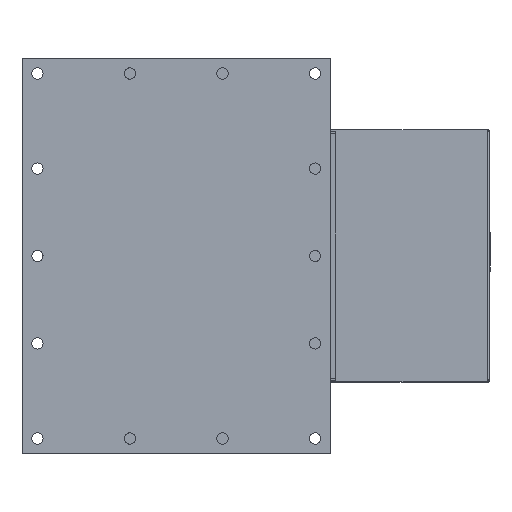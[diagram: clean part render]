
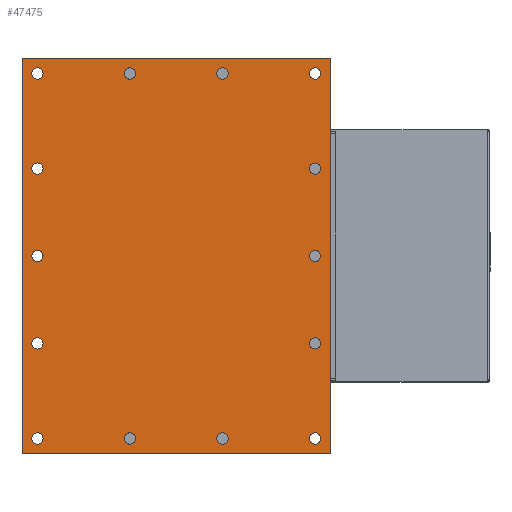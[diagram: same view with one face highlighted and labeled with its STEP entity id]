
A CAD part, top view. The second image highlights one B-rep face of the part: STEP entity #47475.
In plain terms, the highlighted planar face has unit normal (0, 0, 1).
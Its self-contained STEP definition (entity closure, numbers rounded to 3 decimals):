
#1965=FACE_BOUND('',#15695,.T.);
#1966=FACE_BOUND('',#15696,.T.);
#1967=FACE_BOUND('',#15697,.T.);
#1968=FACE_BOUND('',#15698,.T.);
#1969=FACE_BOUND('',#15699,.T.);
#1970=FACE_BOUND('',#15700,.T.);
#1971=FACE_BOUND('',#15701,.T.);
#1972=FACE_BOUND('',#15702,.T.);
#1973=FACE_BOUND('',#15703,.T.);
#1974=FACE_BOUND('',#15704,.T.);
#1975=FACE_BOUND('',#15705,.T.);
#1976=FACE_BOUND('',#15706,.T.);
#1977=FACE_BOUND('',#15707,.T.);
#1978=FACE_BOUND('',#15708,.T.);
#4836=LINE('',#81065,#8213);
#4837=LINE('',#81067,#8214);
#4838=LINE('',#81069,#8215);
#4839=LINE('',#81070,#8216);
#8213=VECTOR('',#63866,600.);
#8214=VECTOR('',#63867,770.);
#8215=VECTOR('',#63868,600.);
#8216=VECTOR('',#63869,770.);
#9896=PLANE('',#52052);
#12432=FACE_OUTER_BOUND('',#15694,.T.);
#15694=EDGE_LOOP('',(#39875,#39876,#39877,#39878));
#15695=EDGE_LOOP('',(#39879));
#15696=EDGE_LOOP('',(#39880));
#15697=EDGE_LOOP('',(#39881));
#15698=EDGE_LOOP('',(#39882));
#15699=EDGE_LOOP('',(#39883));
#15700=EDGE_LOOP('',(#39884));
#15701=EDGE_LOOP('',(#39885));
#15702=EDGE_LOOP('',(#39886));
#15703=EDGE_LOOP('',(#39887));
#15704=EDGE_LOOP('',(#39888));
#15705=EDGE_LOOP('',(#39889));
#15706=EDGE_LOOP('',(#39890));
#15707=EDGE_LOOP('',(#39891));
#15708=EDGE_LOOP('',(#39892));
#17461=CIRCLE('',#49714,11.);
#17463=CIRCLE('',#49717,11.);
#17465=CIRCLE('',#49720,11.);
#17467=CIRCLE('',#49723,11.);
#17470=CIRCLE('',#49727,11.);
#17472=CIRCLE('',#49730,11.);
#17474=CIRCLE('',#49733,11.);
#17476=CIRCLE('',#49736,11.);
#17478=CIRCLE('',#49739,11.);
#17480=CIRCLE('',#49742,11.);
#17481=CIRCLE('',#49744,11.);
#17483=CIRCLE('',#49747,11.);
#17486=CIRCLE('',#49751,11.);
#17487=CIRCLE('',#49753,11.);
#20434=VERTEX_POINT('',#72853);
#20436=VERTEX_POINT('',#72858);
#20438=VERTEX_POINT('',#72863);
#20440=VERTEX_POINT('',#72868);
#20443=VERTEX_POINT('',#72875);
#20445=VERTEX_POINT('',#72880);
#20447=VERTEX_POINT('',#72885);
#20449=VERTEX_POINT('',#72890);
#20451=VERTEX_POINT('',#72895);
#20453=VERTEX_POINT('',#72900);
#20454=VERTEX_POINT('',#72903);
#20456=VERTEX_POINT('',#72908);
#20459=VERTEX_POINT('',#72915);
#20460=VERTEX_POINT('',#72918);
#22313=VERTEX_POINT('',#81063);
#22314=VERTEX_POINT('',#81064);
#22315=VERTEX_POINT('',#81066);
#22316=VERTEX_POINT('',#81068);
#25344=EDGE_CURVE('',#20434,#20434,#17461,.T.);
#25346=EDGE_CURVE('',#20436,#20436,#17463,.T.);
#25348=EDGE_CURVE('',#20438,#20438,#17465,.T.);
#25350=EDGE_CURVE('',#20440,#20440,#17467,.T.);
#25353=EDGE_CURVE('',#20443,#20443,#17470,.T.);
#25355=EDGE_CURVE('',#20445,#20445,#17472,.T.);
#25357=EDGE_CURVE('',#20447,#20447,#17474,.T.);
#25359=EDGE_CURVE('',#20449,#20449,#17476,.T.);
#25361=EDGE_CURVE('',#20451,#20451,#17478,.T.);
#25363=EDGE_CURVE('',#20453,#20453,#17480,.T.);
#25364=EDGE_CURVE('',#20454,#20454,#17481,.T.);
#25366=EDGE_CURVE('',#20456,#20456,#17483,.T.);
#25369=EDGE_CURVE('',#20459,#20459,#17486,.T.);
#25370=EDGE_CURVE('',#20460,#20460,#17487,.T.);
#28272=EDGE_CURVE('',#22313,#22314,#4836,.T.);
#28273=EDGE_CURVE('',#22315,#22313,#4837,.T.);
#28274=EDGE_CURVE('',#22316,#22315,#4838,.T.);
#28275=EDGE_CURVE('',#22314,#22316,#4839,.T.);
#39875=ORIENTED_EDGE('',*,*,#28272,.F.);
#39876=ORIENTED_EDGE('',*,*,#28273,.F.);
#39877=ORIENTED_EDGE('',*,*,#28274,.F.);
#39878=ORIENTED_EDGE('',*,*,#28275,.F.);
#39879=ORIENTED_EDGE('',*,*,#25344,.T.);
#39880=ORIENTED_EDGE('',*,*,#25346,.T.);
#39881=ORIENTED_EDGE('',*,*,#25348,.T.);
#39882=ORIENTED_EDGE('',*,*,#25350,.T.);
#39883=ORIENTED_EDGE('',*,*,#25353,.T.);
#39884=ORIENTED_EDGE('',*,*,#25355,.T.);
#39885=ORIENTED_EDGE('',*,*,#25357,.T.);
#39886=ORIENTED_EDGE('',*,*,#25359,.T.);
#39887=ORIENTED_EDGE('',*,*,#25361,.T.);
#39888=ORIENTED_EDGE('',*,*,#25363,.T.);
#39889=ORIENTED_EDGE('',*,*,#25364,.T.);
#39890=ORIENTED_EDGE('',*,*,#25366,.T.);
#39891=ORIENTED_EDGE('',*,*,#25369,.T.);
#39892=ORIENTED_EDGE('',*,*,#25370,.T.);
#47475=ADVANCED_FACE('',(#12432,#1965,#1966,#1967,#1968,#1969,#1970,#1971,
#1972,#1973,#1974,#1975,#1976,#1977,#1978),#9896,.T.);
#49714=AXIS2_PLACEMENT_3D('',#72854,#57760,#57761);
#49717=AXIS2_PLACEMENT_3D('',#72859,#57766,#57767);
#49720=AXIS2_PLACEMENT_3D('',#72864,#57772,#57773);
#49723=AXIS2_PLACEMENT_3D('',#72869,#57778,#57779);
#49727=AXIS2_PLACEMENT_3D('',#72876,#57786,#57787);
#49730=AXIS2_PLACEMENT_3D('',#72881,#57792,#57793);
#49733=AXIS2_PLACEMENT_3D('',#72886,#57798,#57799);
#49736=AXIS2_PLACEMENT_3D('',#72891,#57804,#57805);
#49739=AXIS2_PLACEMENT_3D('',#72896,#57810,#57811);
#49742=AXIS2_PLACEMENT_3D('',#72901,#57816,#57817);
#49744=AXIS2_PLACEMENT_3D('',#72904,#57820,#57821);
#49747=AXIS2_PLACEMENT_3D('',#72909,#57826,#57827);
#49751=AXIS2_PLACEMENT_3D('',#72916,#57834,#57835);
#49753=AXIS2_PLACEMENT_3D('',#72919,#57838,#57839);
#52052=AXIS2_PLACEMENT_3D('',#81062,#63864,#63865);
#57760=DIRECTION('center_axis',(0.,0.,
-1.));
#57761=DIRECTION('ref_axis',(1.,0.,0.));
#57766=DIRECTION('center_axis',(0.,0.,
-1.));
#57767=DIRECTION('ref_axis',(1.,0.,0.));
#57772=DIRECTION('center_axis',(0.,0.,
-1.));
#57773=DIRECTION('ref_axis',(1.,0.,0.));
#57778=DIRECTION('center_axis',(0.,0.,
-1.));
#57779=DIRECTION('ref_axis',(1.,0.,0.));
#57786=DIRECTION('center_axis',(0.,0.,
-1.));
#57787=DIRECTION('ref_axis',(1.,0.,0.));
#57792=DIRECTION('center_axis',(0.,0.,
-1.));
#57793=DIRECTION('ref_axis',(1.,0.,0.));
#57798=DIRECTION('center_axis',(0.,0.,
-1.));
#57799=DIRECTION('ref_axis',(1.,0.,0.));
#57804=DIRECTION('center_axis',(0.,0.,
-1.));
#57805=DIRECTION('ref_axis',(1.,0.,0.));
#57810=DIRECTION('center_axis',(0.,0.,
-1.));
#57811=DIRECTION('ref_axis',(1.,0.,0.));
#57816=DIRECTION('center_axis',(0.,0.,
-1.));
#57817=DIRECTION('ref_axis',(1.,0.,0.));
#57820=DIRECTION('center_axis',(0.,0.,
-1.));
#57821=DIRECTION('ref_axis',(1.,0.,0.));
#57826=DIRECTION('center_axis',(0.,0.,
-1.));
#57827=DIRECTION('ref_axis',(1.,0.,0.));
#57834=DIRECTION('center_axis',(0.,0.,
-1.));
#57835=DIRECTION('ref_axis',(1.,0.,0.));
#57838=DIRECTION('center_axis',(0.,0.,
-1.));
#57839=DIRECTION('ref_axis',(1.,0.,0.));
#63864=DIRECTION('center_axis',(0.,0.,
1.));
#63865=DIRECTION('ref_axis',(0.,1.,0.));
#63866=DIRECTION('',(1.,0.,0.));
#63867=DIRECTION('',(0.,1.,0.));
#63868=DIRECTION('',(-1.,0.,0.));
#63869=DIRECTION('',(0.,-1.,0.));
#72853=CARTESIAN_POINT('',(101.,-355.,10.));
#72854=CARTESIAN_POINT('Origin',(90.,-355.,10.));
#72858=CARTESIAN_POINT('',(281.,-170.,10.));
#72859=CARTESIAN_POINT('Origin',(270.,-170.,10.));
#72863=CARTESIAN_POINT('',(281.,170.,10.));
#72864=CARTESIAN_POINT('Origin',(270.,170.,10.));
#72868=CARTESIAN_POINT('',(101.,355.,10.));
#72869=CARTESIAN_POINT('Origin',(90.,355.,10.));
#72875=CARTESIAN_POINT('',(-259.,355.,10.));
#72876=CARTESIAN_POINT('Origin',(-270.,355.,10.));
#72880=CARTESIAN_POINT('',(-259.,0.,10.));
#72881=CARTESIAN_POINT('Origin',(-270.,0.,10.));
#72885=CARTESIAN_POINT('',(-259.,-355.,10.));
#72886=CARTESIAN_POINT('Origin',(-270.,-355.,10.));
#72890=CARTESIAN_POINT('',(-259.,-170.,10.));
#72891=CARTESIAN_POINT('Origin',(-270.,-170.,10.));
#72895=CARTESIAN_POINT('',(-259.,170.,10.));
#72896=CARTESIAN_POINT('Origin',(-270.,170.,10.));
#72900=CARTESIAN_POINT('',(281.,355.,10.));
#72901=CARTESIAN_POINT('Origin',(270.,355.,10.));
#72903=CARTESIAN_POINT('',(-79.,355.,10.));
#72904=CARTESIAN_POINT('Origin',(-90.,355.,10.));
#72908=CARTESIAN_POINT('',(281.,0.,10.));
#72909=CARTESIAN_POINT('Origin',(270.,0.,10.));
#72915=CARTESIAN_POINT('',(281.,-355.,10.));
#72916=CARTESIAN_POINT('Origin',(270.,-355.,10.));
#72918=CARTESIAN_POINT('',(-79.,-355.,10.));
#72919=CARTESIAN_POINT('Origin',(-90.,-355.,10.));
#81062=CARTESIAN_POINT('Origin',(0.,0.,
10.));
#81063=CARTESIAN_POINT('',(-300.,385.,10.));
#81064=CARTESIAN_POINT('',(300.,385.,10.));
#81065=CARTESIAN_POINT('',(-300.,385.,10.));
#81066=CARTESIAN_POINT('',(-300.,-385.,10.));
#81067=CARTESIAN_POINT('',(-300.,-385.,10.));
#81068=CARTESIAN_POINT('',(300.,-385.,10.));
#81069=CARTESIAN_POINT('',(300.,-385.,10.));
#81070=CARTESIAN_POINT('',(300.,385.,10.));
